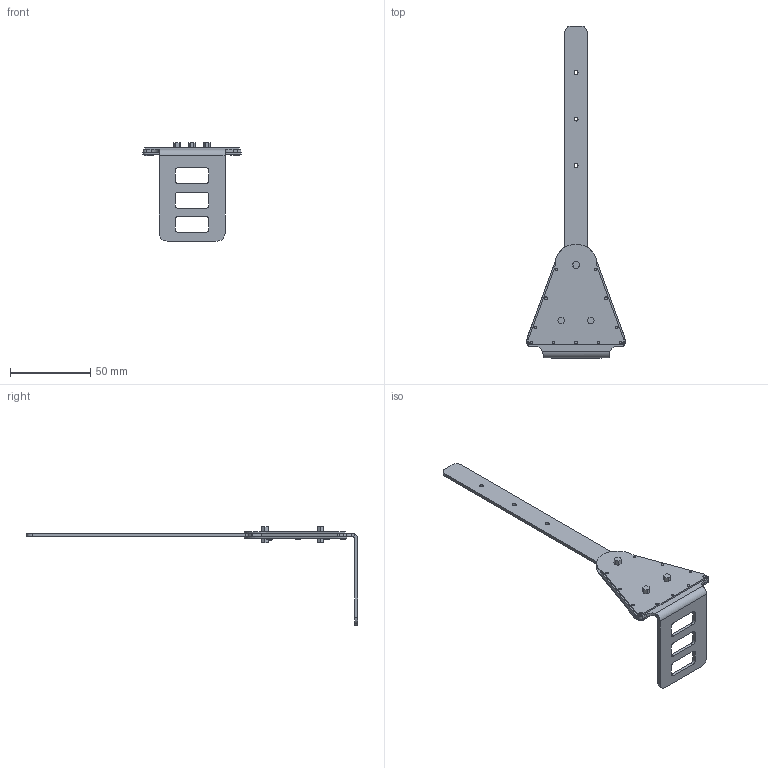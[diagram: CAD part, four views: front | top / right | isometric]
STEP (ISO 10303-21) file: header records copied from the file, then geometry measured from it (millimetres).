
FILE_DESCRIPTION(('Unknown'),'2;1');
FILE_NAME('','Unknown',('Unknown'),('Unknown'),'','Unknown','');
FILE_SCHEMA(('CONFIG_CONTROL_DESIGN'));
Length unit declared in the file: millimetre
Products named in the file (23): Sexkant; skruv; spring; 11113; 11114; 11178; 11111; 11112; 11110
Bounding box: 61.17 x 206.93 x 61.25 mm (x, y, z)
Volume: 16365.6 mm3; surface area: 25193 mm2
Topology: 23 solids, 23 shells, 387 faces, 1023 edges, 693 vertices
Faces by surface type: plane 244, cylinder 108, torus 22, cone 11, bspline 2
Full cylindrical faces by diameter (mm): 1.7 x33, 2.1 x11, 2.5 x3, 8 x2, 10.003 x2
Entity records: 19037 total; most frequent: CARTESIAN_POINT 7749, ORIENTED_EDGE 1826, DIRECTION 1820, EDGE_CURVE 913, AXIS2_PLACEMENT_3D 646, VERTEX_POINT 645, EDGE_LOOP 558, LINE 528
